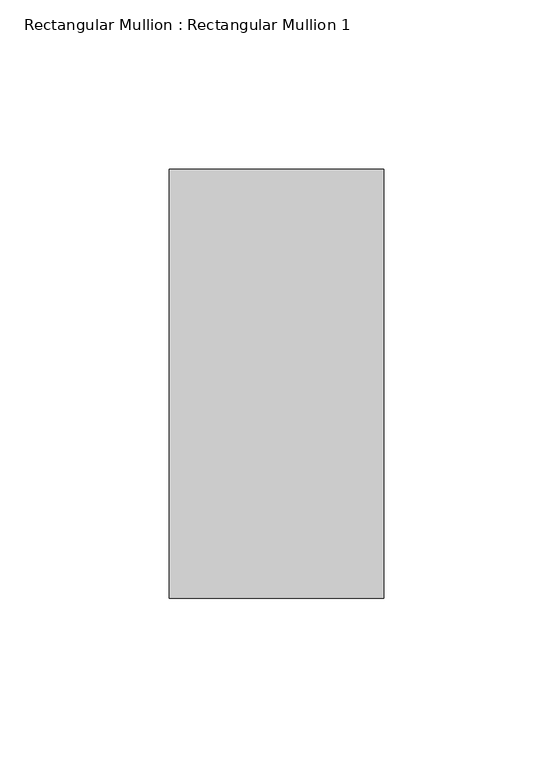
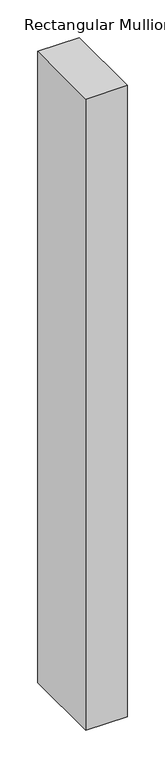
"""IFC4 building model written with IfcOpenShell, lengths in millimetres: member geometry, Rectangular Mullion : Rectangular Mullion 1."""

from ifc_helpers import new_model, si_unit, frame, origin, place, context, project, spatial, polyline, outline, extrude, source, transform, mapped, element, save


def rectangular_mullion_rectangular_mullion_1_d31034ac(model_context):
    return source(origin(), model_context, "Body", "SweptSolid", [
        extrude(outline(polyline([(31.75, 63.5), (31.75, -63.5), (-31.75, -63.5), (-31.75, 63.5), (31.75, 63.5)])), frame((0.0, 0.0, -1020.5357143), z_axis=(0.0, 0.0, 1.0), x_axis=(1.0, 0.0, 0.0)), (0.0, 0.0, 1.0), 1020.5357143),
    ])


if __name__ == "__main__":
    model = new_model("IFC4")
    model_context = context("Model", 3, world=origin())
    ifc_project = project(units=[si_unit("LENGTHUNIT", "METRE", prefix="MILLI")], contexts=[model_context])
    site = spatial("IfcSite", under=ifc_project)
    building = spatial("IfcBuilding", under=site)
    placement = place(None, origin())
    rectangular_mullion_rectangular_mullion_1_shape = rectangular_mullion_rectangular_mullion_1_d31034ac(model_context)
    element("IfcMember", 1, ObjectType="Rectangular Mullion : Rectangular Mullion 1", at=placement, inside=building, context=model_context, shape_type="MappedRepresentation", body=[
        mapped(rectangular_mullion_rectangular_mullion_1_shape, transform((0.0, 0.0, 0.0), x_axis=(1.0, 0.0, 0.0), y_axis=(0.0, 1.0, 0.0), z_axis=(0.0, 0.0, 1.0))),
    ])
    save(model, "model.ifc")
